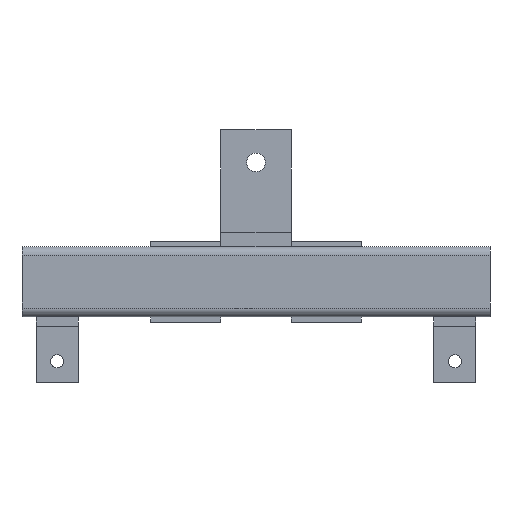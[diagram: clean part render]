
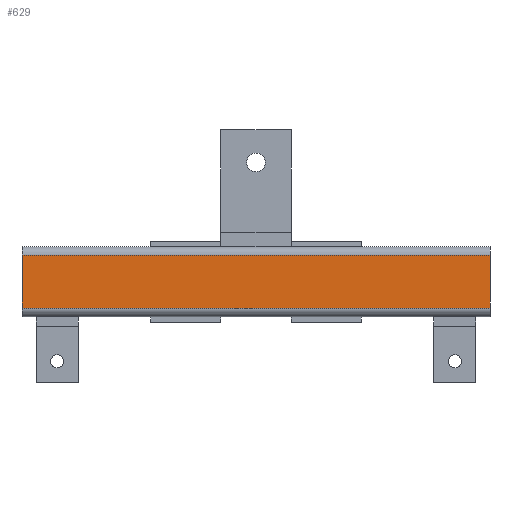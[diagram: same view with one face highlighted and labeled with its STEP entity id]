
A CAD part, front view. The second image highlights one B-rep face of the part: STEP entity #629.
In plain terms, the highlighted planar face has unit normal (0, -1, 0).
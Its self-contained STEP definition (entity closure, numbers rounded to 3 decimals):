
#150 = CYLINDRICAL_SURFACE('',#151,18.75);
#151 = AXIS2_PLACEMENT_3D('',#152,#153,#154);
#152 = CARTESIAN_POINT('',(-500.,-556.25,-56.25));
#153 = DIRECTION('',(-1.,-0.,-0.));
#154 = DIRECTION('',(0.,1.,0.));
#178 = PLANE('',#179);
#179 = AXIS2_PLACEMENT_3D('',#180,#181,#182);
#180 = CARTESIAN_POINT('',(500.,-500.,0.));
#181 = DIRECTION('',(1.,0.,0.));
#182 = DIRECTION('',(0.,1.,0.));
#232 = PLANE('',#233);
#233 = AXIS2_PLACEMENT_3D('',#234,#235,#236);
#234 = CARTESIAN_POINT('',(-500.,-500.,0.));
#235 = DIRECTION('',(1.,0.,0.));
#236 = DIRECTION('',(0.,1.,0.));
#519 = CYLINDRICAL_SURFACE('',#520,18.75);
#520 = AXIS2_PLACEMENT_3D('',#521,#522,#523);
#521 = CARTESIAN_POINT('',(-500.,-556.25,56.25));
#522 = DIRECTION('',(-1.,-0.,-0.));
#523 = DIRECTION('',(0.,1.,0.));
#557 = VERTEX_POINT('',#558);
#558 = CARTESIAN_POINT('',(500.,-575.,56.25));
#580 = EDGE_CURVE('',#581,#557,#583,.T.);
#581 = VERTEX_POINT('',#582);
#582 = CARTESIAN_POINT('',(-500.,-575.,56.25));
#583 = SURFACE_CURVE('',#584,(#588,#595),.PCURVE_S1.);
#584 = LINE('',#585,#586);
#585 = CARTESIAN_POINT('',(-500.,-575.,56.25));
#586 = VECTOR('',#587,1.);
#587 = DIRECTION('',(1.,0.,0.));
#588 = PCURVE('',#519,#589);
#589 = DEFINITIONAL_REPRESENTATION('',(#590),#594);
#590 = LINE('',#591,#592);
#591 = CARTESIAN_POINT('',(-3.142,0.));
#592 = VECTOR('',#593,1.);
#593 = DIRECTION('',(-0.,-1.));
#594 = ( GEOMETRIC_REPRESENTATION_CONTEXT(2) 
PARAMETRIC_REPRESENTATION_CONTEXT() REPRESENTATION_CONTEXT('2D SPACE',''
  ) );
#595 = PCURVE('',#596,#601);
#596 = PLANE('',#597);
#597 = AXIS2_PLACEMENT_3D('',#598,#599,#600);
#598 = CARTESIAN_POINT('',(-500.,-575.,56.25));
#599 = DIRECTION('',(0.,1.,0.));
#600 = DIRECTION('',(0.,0.,-1.));
#601 = DEFINITIONAL_REPRESENTATION('',(#602),#606);
#602 = LINE('',#603,#604);
#603 = CARTESIAN_POINT('',(0.,0.));
#604 = VECTOR('',#605,1.);
#605 = DIRECTION('',(0.,-1.));
#606 = ( GEOMETRIC_REPRESENTATION_CONTEXT(2) 
PARAMETRIC_REPRESENTATION_CONTEXT() REPRESENTATION_CONTEXT('2D SPACE',''
  ) );
#629 = ADVANCED_FACE('',(#630),#596,.F.);
#630 = FACE_BOUND('',#631,.F.);
#631 = EDGE_LOOP('',(#632,#633,#656,#679));
#632 = ORIENTED_EDGE('',*,*,#580,.T.);
#633 = ORIENTED_EDGE('',*,*,#634,.T.);
#634 = EDGE_CURVE('',#557,#635,#637,.T.);
#635 = VERTEX_POINT('',#636);
#636 = CARTESIAN_POINT('',(500.,-575.,-56.25));
#637 = SURFACE_CURVE('',#638,(#642,#649),.PCURVE_S1.);
#638 = LINE('',#639,#640);
#639 = CARTESIAN_POINT('',(500.,-575.,56.25));
#640 = VECTOR('',#641,1.);
#641 = DIRECTION('',(0.,0.,-1.));
#642 = PCURVE('',#596,#643);
#643 = DEFINITIONAL_REPRESENTATION('',(#644),#648);
#644 = LINE('',#645,#646);
#645 = CARTESIAN_POINT('',(0.,-1000.));
#646 = VECTOR('',#647,1.);
#647 = DIRECTION('',(1.,0.));
#648 = ( GEOMETRIC_REPRESENTATION_CONTEXT(2) 
PARAMETRIC_REPRESENTATION_CONTEXT() REPRESENTATION_CONTEXT('2D SPACE',''
  ) );
#649 = PCURVE('',#178,#650);
#650 = DEFINITIONAL_REPRESENTATION('',(#651),#655);
#651 = LINE('',#652,#653);
#652 = CARTESIAN_POINT('',(-75.,56.25));
#653 = VECTOR('',#654,1.);
#654 = DIRECTION('',(0.,-1.));
#655 = ( GEOMETRIC_REPRESENTATION_CONTEXT(2) 
PARAMETRIC_REPRESENTATION_CONTEXT() REPRESENTATION_CONTEXT('2D SPACE',''
  ) );
#656 = ORIENTED_EDGE('',*,*,#657,.F.);
#657 = EDGE_CURVE('',#658,#635,#660,.T.);
#658 = VERTEX_POINT('',#659);
#659 = CARTESIAN_POINT('',(-500.,-575.,-56.25));
#660 = SURFACE_CURVE('',#661,(#665,#672),.PCURVE_S1.);
#661 = LINE('',#662,#663);
#662 = CARTESIAN_POINT('',(-500.,-575.,-56.25));
#663 = VECTOR('',#664,1.);
#664 = DIRECTION('',(1.,0.,0.));
#665 = PCURVE('',#596,#666);
#666 = DEFINITIONAL_REPRESENTATION('',(#667),#671);
#667 = LINE('',#668,#669);
#668 = CARTESIAN_POINT('',(112.5,0.));
#669 = VECTOR('',#670,1.);
#670 = DIRECTION('',(0.,-1.));
#671 = ( GEOMETRIC_REPRESENTATION_CONTEXT(2) 
PARAMETRIC_REPRESENTATION_CONTEXT() REPRESENTATION_CONTEXT('2D SPACE',''
  ) );
#672 = PCURVE('',#150,#673);
#673 = DEFINITIONAL_REPRESENTATION('',(#674),#678);
#674 = LINE('',#675,#676);
#675 = CARTESIAN_POINT('',(-3.142,0.));
#676 = VECTOR('',#677,1.);
#677 = DIRECTION('',(-0.,-1.));
#678 = ( GEOMETRIC_REPRESENTATION_CONTEXT(2) 
PARAMETRIC_REPRESENTATION_CONTEXT() REPRESENTATION_CONTEXT('2D SPACE',''
  ) );
#679 = ORIENTED_EDGE('',*,*,#680,.F.);
#680 = EDGE_CURVE('',#581,#658,#681,.T.);
#681 = SURFACE_CURVE('',#682,(#686,#693),.PCURVE_S1.);
#682 = LINE('',#683,#684);
#683 = CARTESIAN_POINT('',(-500.,-575.,56.25));
#684 = VECTOR('',#685,1.);
#685 = DIRECTION('',(0.,0.,-1.));
#686 = PCURVE('',#596,#687);
#687 = DEFINITIONAL_REPRESENTATION('',(#688),#692);
#688 = LINE('',#689,#690);
#689 = CARTESIAN_POINT('',(0.,0.));
#690 = VECTOR('',#691,1.);
#691 = DIRECTION('',(1.,0.));
#692 = ( GEOMETRIC_REPRESENTATION_CONTEXT(2) 
PARAMETRIC_REPRESENTATION_CONTEXT() REPRESENTATION_CONTEXT('2D SPACE',''
  ) );
#693 = PCURVE('',#232,#694);
#694 = DEFINITIONAL_REPRESENTATION('',(#695),#699);
#695 = LINE('',#696,#697);
#696 = CARTESIAN_POINT('',(-75.,56.25));
#697 = VECTOR('',#698,1.);
#698 = DIRECTION('',(0.,-1.));
#699 = ( GEOMETRIC_REPRESENTATION_CONTEXT(2) 
PARAMETRIC_REPRESENTATION_CONTEXT() REPRESENTATION_CONTEXT('2D SPACE',''
  ) );
